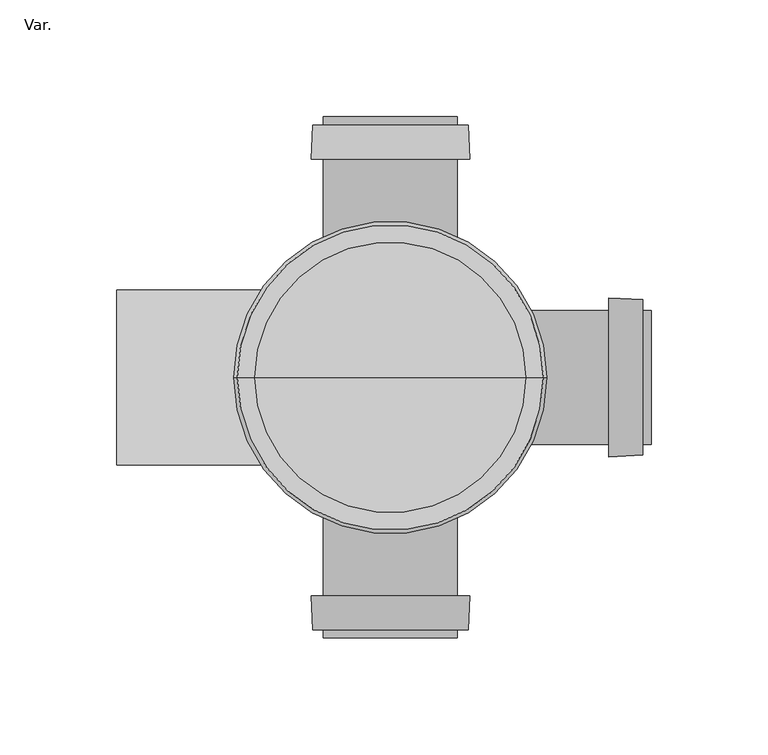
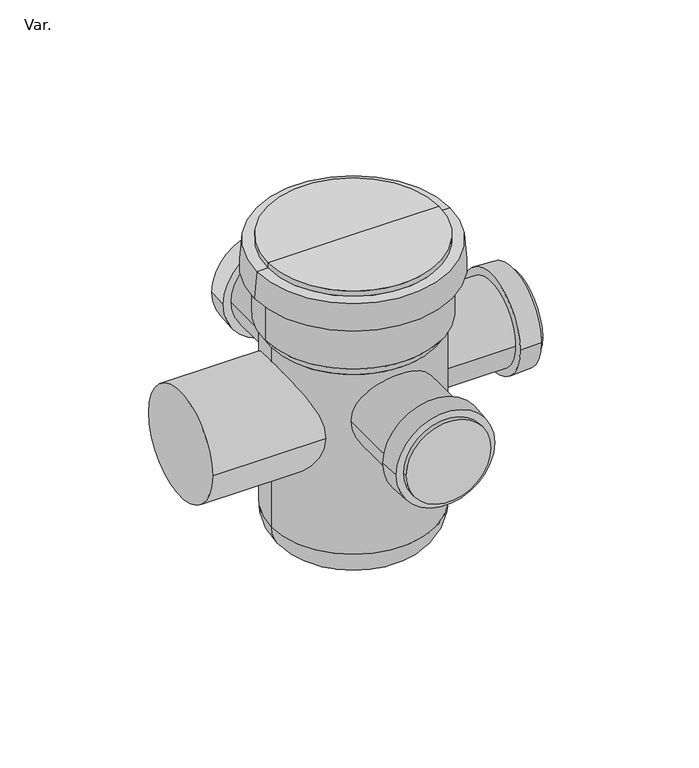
"""IFC4 building model written with IfcOpenShell, lengths in millimetres: pipe fitting geometry, NLRS_52_PIF_UN_HDPE floor gully pushfit_Akatherm : Var.."""

from ifc_helpers import new_model, si_unit, point, frame, frame_2d, origin, origin_with_axes, place, context, project, spatial, polyline, circle_curve, ellipse_curve, trimmed, segment, composite_curve, outline, extrude, source, transform, mapped, element, save
from ifc_brep_helpers import plane_surface, cylinder_surface, revolved_surface, advanced_brep


def var_42bbe541(model_context):
    return source(origin(), model_context, "Body", "SolidModel", [
        extrude(outline(composite_curve([segment(trimmed(circle_curve(frame_2d((0.0, 103.0)), 37.5), [point((37.5, 103.0))], [point((-37.5, 103.0))], False, "CARTESIAN"), True, "CONTINUOUS"), segment(trimmed(circle_curve(frame_2d((0.0, 103.0)), 37.5), [point((-37.5, 103.0))], [point((37.5, 103.0))], False, "CARTESIAN"), True, "CONTINUOUS")], self_intersect=False)), frame((-116.9, 0.0, 0.0), z_axis=(1.0, 0.0, 0.0), x_axis=(0.0, 1.0, 0.0)), (0.0, 0.0, 1.0), 116.9),
        advanced_brep(
        [(108.0, -33.25, 117.0), (108.0, 33.25, 117.0), (93.5, -33.9, 117.0), (93.5, 33.9, 117.0)],
        [
            (0, 1, circle_curve(frame((108.0, 0.0, 117.0), z_axis=(1.0, 0.0, 0.0), x_axis=(0.0, -1.0, 0.0)), 33.25)),
            (1, 0, circle_curve(frame((108.0, 0.0, 117.0), z_axis=(1.0, 0.0, 0.0), x_axis=(0.0, 1.0, 0.0)), 33.25)),
            (2, 3, circle_curve(frame((93.5, 0.0, 117.0), z_axis=(-1.0, 0.0, 0.0), x_axis=(0.0, 1.0, 0.0)), 33.9)),
            (3, 2, circle_curve(frame((93.5, 0.0, 117.0), z_axis=(-1.0, 0.0, 0.0), x_axis=(0.0, -1.0, 0.0)), 33.9)),
            (3, 1),
            (0, 2),
        ],
        [
            plane_surface(frame((108.0, 0.0, 117.0), z_axis=(1.0, 0.0, 0.0), x_axis=(0.0, 0.0, -1.0))),
            plane_surface(frame((93.5, 0.0, 117.0), z_axis=(-1.0, 0.0, 0.0), x_axis=(0.0, 0.0, -1.0))),
            revolved_surface(polyline([(108.0, -33.249999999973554, 117.0), (93.5, -33.9, 117.0)]), (849.7307692, 0.0, 117.0), (-1.0, 0.0, 0.0)),
            revolved_surface(polyline([(108.0, 33.249999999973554, 117.0), (93.5, 33.9, 117.0)]), (849.7307692, 0.0, 117.0), (-1.0, 0.0, 0.0)),
        ],
        [
            (0, [[1, 2]]),
            (1, [[3, 4]]),
            (2, [[-4, 5, -1, 6]]),
            (3, [[-3, -6, -2, -5]]),
        ],
    ),
        extrude(outline(composite_curve([segment(trimmed(circle_curve(frame_2d((0.0, 117.0)), 28.65), [point((-28.65, 117.0))], [point((28.65, 117.0))], False, "CARTESIAN"), True, "CONTINUOUS"), segment(trimmed(circle_curve(frame_2d((0.0, 117.0)), 28.65), [point((28.65, 117.0))], [point((-28.65, 117.0))], False, "CARTESIAN"), True, "CONTINUOUS")], self_intersect=False)), frame((0.0, 0.0, 0.0), z_axis=(1.0, 0.0, 0.0), x_axis=(0.0, 1.0, 0.0)), (0.0, 0.0, 1.0), 111.5),
        advanced_brep(
        [(-33.25, -108.0, 117.0), (33.25, -108.0, 117.0), (-33.9, -93.5, 117.0), (33.9, -93.5, 117.0)],
        [
            (0, 1, circle_curve(frame((0.0, -108.0, 117.0), z_axis=(0.0, -1.0, 0.0), x_axis=(-1.0, 0.0, 0.0)), 33.25)),
            (1, 0, circle_curve(frame((0.0, -108.0, 117.0), z_axis=(0.0, -1.0, 0.0), x_axis=(1.0, 0.0, 0.0)), 33.25)),
            (2, 3, circle_curve(frame((0.0, -93.5, 117.0), z_axis=(0.0, 1.0, 0.0), x_axis=(1.0, 0.0, 0.0)), 33.9)),
            (3, 2, circle_curve(frame((0.0, -93.5, 117.0), z_axis=(0.0, 1.0, 0.0), x_axis=(-1.0, 0.0, 0.0)), 33.9)),
            (3, 1),
            (0, 2),
        ],
        [
            plane_surface(frame((0.0, -108.0, 117.0), z_axis=(0.0, -1.0, 0.0), x_axis=(0.0, 0.0, -1.0))),
            plane_surface(frame((0.0, -93.5, 117.0), z_axis=(0.0, 1.0, 0.0), x_axis=(0.0, 0.0, -1.0))),
            revolved_surface(polyline([(-33.249999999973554, -108.0, 117.0), (-33.9, -93.5, 117.0)]), (0.0, -849.7307692, 117.0), (0.0, 1.0, 0.0)),
            revolved_surface(polyline([(33.249999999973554, -108.0, 117.0), (33.9, -93.5, 117.0)]), (0.0, -849.7307692, 117.0), (0.0, 1.0, 0.0)),
        ],
        [
            (0, [[1, 2]]),
            (1, [[3, 4]]),
            (2, [[-4, 5, -1, 6]]),
            (3, [[-3, -6, -2, -5]]),
        ],
    ),
        extrude(outline(composite_curve([segment(trimmed(circle_curve(frame_2d((117.0, 0.0)), 28.65), [point((117.0, -28.65))], [point((117.0, 28.65))], False, "CARTESIAN"), True, "CONTINUOUS"), segment(trimmed(circle_curve(frame_2d((117.0, 0.0)), 28.65), [point((117.0, 28.65))], [point((117.0, -28.65))], False, "CARTESIAN"), True, "CONTINUOUS")], self_intersect=False)), frame((0.0, -111.5, 0.0), z_axis=(0.0, 1.0, 0.0), x_axis=(0.0, 0.0, 1.0)), (0.0, 0.0, 1.0), 111.5),
        extrude(outline(composite_curve([segment(trimmed(circle_curve(frame_2d((117.0, 0.0)), 28.65), [point((117.0, -28.65))], [point((117.0, 28.65))], False, "CARTESIAN"), True, "CONTINUOUS"), segment(trimmed(circle_curve(frame_2d((117.0, 0.0)), 28.65), [point((117.0, 28.65))], [point((117.0, -28.65))], False, "CARTESIAN"), True, "CONTINUOUS")], self_intersect=False)), frame((0.0, 0.0, 0.0), z_axis=(0.0, 1.0, 0.0), x_axis=(0.0, 0.0, 1.0)), (0.0, 0.0, 1.0), 111.5),
        advanced_brep(
        [(-33.9, 93.5, 117.0), (33.9, 93.5, 117.0), (-33.25, 108.0, 117.0), (33.25, 108.0, 117.0)],
        [
            (0, 1, circle_curve(frame((0.0, 93.5, 117.0), z_axis=(0.0, -1.0, 0.0), x_axis=(-1.0, 0.0, 0.0)), 33.9)),
            (1, 0, circle_curve(frame((0.0, 93.5, 117.0), z_axis=(0.0, -1.0, 0.0), x_axis=(1.0, 0.0, 0.0)), 33.9)),
            (2, 3, circle_curve(frame((0.0, 108.0, 117.0), z_axis=(0.0, 1.0, 0.0), x_axis=(1.0, 0.0, 0.0)), 33.25)),
            (3, 2, circle_curve(frame((0.0, 108.0, 117.0), z_axis=(0.0, 1.0, 0.0), x_axis=(-1.0, 0.0, 0.0)), 33.25)),
            (3, 1),
            (0, 2),
        ],
        [
            plane_surface(frame((0.0, 93.5, 117.0), z_axis=(0.0, -1.0, 0.0), x_axis=(0.0, 0.0, -1.0))),
            plane_surface(frame((0.0, 108.0, 117.0), z_axis=(0.0, 1.0, 0.0), x_axis=(0.0, 0.0, -1.0))),
            revolved_surface(polyline([(33.249999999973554, 108.0, 117.0), (33.9, 93.5, 117.0)]), (0.0, 849.7307692, 117.0), (0.0, -1.0, 0.0)),
            revolved_surface(polyline([(-33.249999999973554, 108.0, 117.0), (-33.9, 93.5, 117.0)]), (0.0, 849.7307692, 117.0), (0.0, -1.0, 0.0)),
        ],
        [
            (0, [[1, 2]]),
            (1, [[3, 4]]),
            (2, [[-4, 5, -1, 6]]),
            (3, [[-3, -6, -2, -5]]),
        ],
    ),
        advanced_brep(
        [(-55.5, 0.0, 22.0), (55.5, 0.0, 22.0), (33.5, 0.0, 0.0), (-33.5, 0.0, 0.0), (-55.5, 0.0, 150.6), (55.5, 0.0, 150.6), (0.0, 0.0, 0.0), (-59.65, 0.0, 157.4), (59.65, 0.0, 157.4), (-59.65, 0.0, 189.7), (59.65, 0.0, 189.7), (-66.85, 0.0, 189.7), (66.85, 0.0, 189.7), (-65.4, 0.0, 208.3), (65.4, 0.0, 208.3), (-57.9, 0.0, 208.3), (57.9, 0.0, 208.3), (-57.9, 0.0, 212.0), (57.9, 0.0, 212.0), (0.0, 0.0, 212.0)],
        [
            (0, 1, circle_curve(frame((0.0, 0.0, 22.0), z_axis=(0.0, 0.0, -1.0), x_axis=(1.0, 0.0, 0.0)), 55.5)),
            (1, 2, circle_curve(frame((33.5, 0.0, 22.0), z_axis=(0.0, 1.0, 0.0), x_axis=(1.0, 0.0, 0.0)), 22.0)),
            (2, 3, circle_curve(origin_with_axes(), 33.5)),
            (3, 0, circle_curve(frame((-33.5, 0.0, 22.0), z_axis=(0.0, 1.0, 0.0), x_axis=(-1.0, 0.0, 0.0)), 22.0)),
            (1, 0, circle_curve(frame((0.0, 0.0, 22.0), z_axis=(0.0, 0.0, -1.0), x_axis=(1.0, 0.0, 0.0)), 55.5)),
            (3, 2, circle_curve(origin_with_axes(), 33.5)),
            (4, 5, circle_curve(frame((0.0, 0.0, 150.6), z_axis=(0.0, 0.0, -1.0), x_axis=(1.0, 0.0, 0.0)), 55.5)),
            (5, 1),
            (0, 4),
            (5, 4, circle_curve(frame((0.0, 0.0, 150.6), z_axis=(0.0, 0.0, -1.0), x_axis=(1.0, 0.0, 0.0)), 55.5)),
            (2, 6),
            (6, 3),
            (7, 8, circle_curve(frame((0.0, 0.0, 157.4), z_axis=(0.0, 0.0, -1.0), x_axis=(1.0, 0.0, 0.0)), 59.65)),
            (8, 5),
            (4, 7),
            (8, 7, circle_curve(frame((0.0, 0.0, 157.4), z_axis=(0.0, 0.0, -1.0), x_axis=(1.0, 0.0, 0.0)), 59.65)),
            (9, 10, circle_curve(frame((0.0, 0.0, 189.7), z_axis=(0.0, 0.0, -1.0), x_axis=(1.0, 0.0, 0.0)), 59.65)),
            (10, 8),
            (7, 9),
            (10, 9, circle_curve(frame((0.0, 0.0, 189.7), z_axis=(0.0, 0.0, -1.0), x_axis=(1.0, 0.0, 0.0)), 59.65)),
            (11, 12, circle_curve(frame((0.0, 0.0, 189.7), z_axis=(0.0, 0.0, -1.0), x_axis=(1.0, 0.0, 0.0)), 66.85)),
            (12, 10),
            (9, 11),
            (12, 11, circle_curve(frame((0.0, 0.0, 189.7), z_axis=(0.0, 0.0, -1.0), x_axis=(1.0, 0.0, 0.0)), 66.85)),
            (13, 14, circle_curve(frame((0.0, 0.0, 208.3), z_axis=(0.0, 0.0, -1.0), x_axis=(1.0, 0.0, 0.0)), 65.4)),
            (14, 12),
            (11, 13),
            (14, 13, circle_curve(frame((0.0, 0.0, 208.3), z_axis=(0.0, 0.0, -1.0), x_axis=(1.0, 0.0, 0.0)), 65.4)),
            (15, 16, circle_curve(frame((0.0, 0.0, 208.3), z_axis=(0.0, 0.0, -1.0), x_axis=(1.0, 0.0, 0.0)), 57.9)),
            (16, 14),
            (13, 15),
            (16, 15, circle_curve(frame((0.0, 0.0, 208.3), z_axis=(0.0, 0.0, -1.0), x_axis=(1.0, 0.0, 0.0)), 57.9)),
            (17, 18, circle_curve(frame((0.0, 0.0, 212.0), z_axis=(0.0, 0.0, -1.0), x_axis=(1.0, 0.0, 0.0)), 57.9)),
            (18, 16),
            (15, 17),
            (18, 17, circle_curve(frame((0.0, 0.0, 212.0), z_axis=(0.0, 0.0, -1.0), x_axis=(1.0, 0.0, 0.0)), 57.9)),
            (19, 18),
            (17, 19),
        ],
        [
            revolved_surface(trimmed(ellipse_curve(frame((33.5, 0.0, 22.0), z_axis=(0.0, -1.0, 0.0), x_axis=(1.0, 0.0, 0.0)), 22.0, 22.0), [point((33.5, 0.0, 0.0))], [point((55.5, 0.0, 22.0))], True, "CARTESIAN"), (0.0, 0.0, 202.868368), (0.0, 0.0, 1.0)),
            cylinder_surface(frame((0.0, 0.0, 202.868368), z_axis=(0.0, 0.0, 1.0), x_axis=(1.0, 0.0, 0.0)), 55.5),
            plane_surface(frame((0.0, 0.0, 0.0), z_axis=(0.0, 0.0, -1.0), x_axis=(1.0, 0.0, 0.0))),
            revolved_surface(polyline([(55.5, 0.0, 150.6), (59.65, 0.0, 157.4)]), (0.0, 0.0, 202.868368), (0.0, 0.0, 1.0)),
            cylinder_surface(frame((0.0, 0.0, 202.868368), z_axis=(0.0, 0.0, 1.0), x_axis=(1.0, 0.0, 0.0)), 59.65),
            plane_surface(frame((0.0, 0.0, 189.7), z_axis=(0.0, 0.0, -1.0), x_axis=(1.0, 0.0, 0.0))),
            revolved_surface(polyline([(66.85, 0.0, 189.7), (65.4, 0.0, 208.3)]), (0.0, 0.0, 202.868368), (0.0, 0.0, 1.0)),
            plane_surface(frame((0.0, 0.0, 208.3), z_axis=(0.0, 0.0, 1.0), x_axis=(1.0, 0.0, 0.0))),
            cylinder_surface(frame((0.0, 0.0, 202.868368), z_axis=(0.0, 0.0, 1.0), x_axis=(1.0, 0.0, 0.0)), 57.9),
            plane_surface(frame((0.0, 0.0, 212.0), z_axis=(0.0, 0.0, 1.0), x_axis=(1.0, 0.0, 0.0))),
        ],
        [
            (0, [[1, 2, 3, 4]]),
            (0, [[5, -4, 6, -2]]),
            (1, [[7, 8, -1, 9]]),
            (1, [[10, -9, -5, -8]]),
            (2, [[-3, 11, 12]]),
            (2, [[-6, -12, -11]]),
            (3, [[13, 14, -7, 15]]),
            (3, [[16, -15, -10, -14]]),
            (4, [[17, 18, -13, 19]]),
            (4, [[20, -19, -16, -18]]),
            (5, [[21, 22, -17, 23]]),
            (5, [[24, -23, -20, -22]]),
            (6, [[25, 26, -21, 27]]),
            (6, [[28, -27, -24, -26]]),
            (7, [[29, 30, -25, 31]]),
            (7, [[32, -31, -28, -30]]),
            (8, [[33, 34, -29, 35]]),
            (8, [[36, -35, -32, -34]]),
            (9, [[37, -33, 38]]),
            (9, [[-38, -36, -37]]),
        ],
    ),
    ])


if __name__ == "__main__":
    model = new_model("IFC4")
    model_context = context("Model", 3, world=origin())
    ifc_project = project(units=[si_unit("LENGTHUNIT", "METRE", prefix="MILLI")], contexts=[model_context])
    site = spatial("IfcSite", under=ifc_project)
    building = spatial("IfcBuilding", under=site)
    placement = place(None, origin())
    var_shape = var_42bbe541(model_context)
    element("IfcPipeFitting", 1, ObjectType="NLRS_52_PIF_UN_HDPE floor gully pushfit_Akatherm : Var.", at=placement, inside=building, context=model_context, shape_type="MappedRepresentation", body=[
        mapped(var_shape, transform((0.0, 0.0, 0.0), x_axis=(1.0, 0.0, 0.0), y_axis=(0.0, 1.0, 0.0), z_axis=(0.0, 0.0, 1.0))),
    ])
    save(model, "model.ifc")
